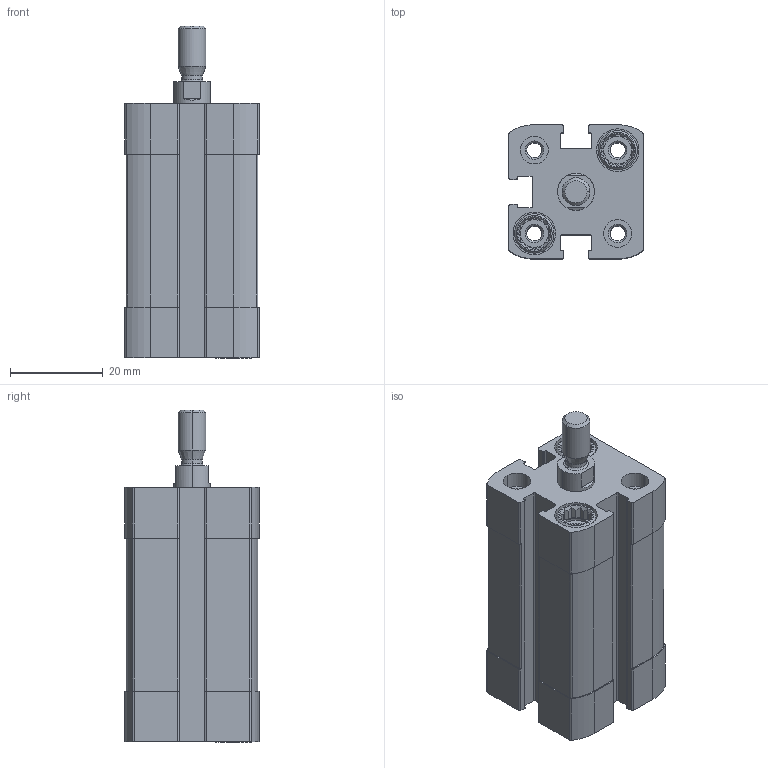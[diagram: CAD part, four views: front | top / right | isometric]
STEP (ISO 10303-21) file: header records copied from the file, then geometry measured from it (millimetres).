
FILE_DESCRIPTION (( 'STEP AP203' ), '1' );
FILE_NAME ('CCN16-20M.STEP', '2017-03-28T14:21:56', ( '' ), ( '' ), 'SwSTEP 2.0', 'SolidWorks 2016', '' );
FILE_SCHEMA (( 'CONFIG_CONTROL_DESIGN' ));
Length unit declared in the file: millimetre
Products named in the file (3): CCN-20---(Z); CCN16-20M; CCN-20_(KS)
Assembly tree (2 placements, depth 2):
  CCN16-20M
    CCN-20---(Z)
    CCN-20_(KS)
Bounding box: 29 x 29 x 71.7 mm (x, y, z)
Volume: 33445.5 mm3; surface area: 17437.8 mm2
Topology: 2 solids, 2 shells, 365 faces, 942 edges, 616 vertices
Faces by surface type: plane 187, cylinder 134, cone 40, bspline 4
Entity records: 11613 total; most frequent: CARTESIAN_POINT 2288, DIRECTION 1898, ORIENTED_EDGE 1884, EDGE_CURVE 942, AXIS2_PLACEMENT_3D 690, VERTEX_POINT 616, VECTOR 518, LINE 518
